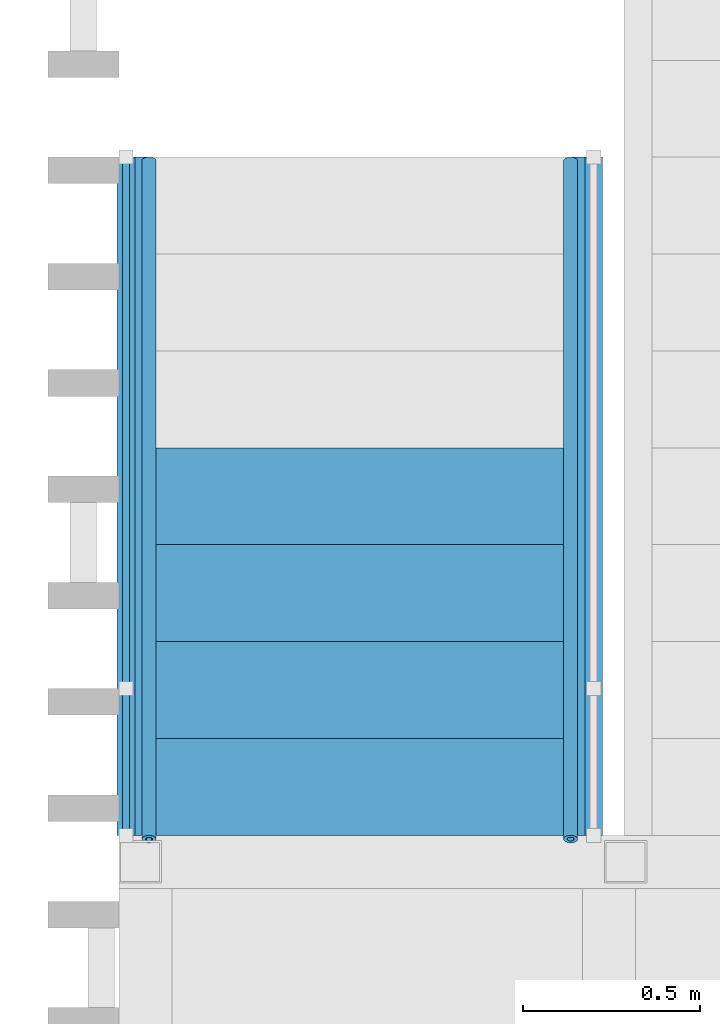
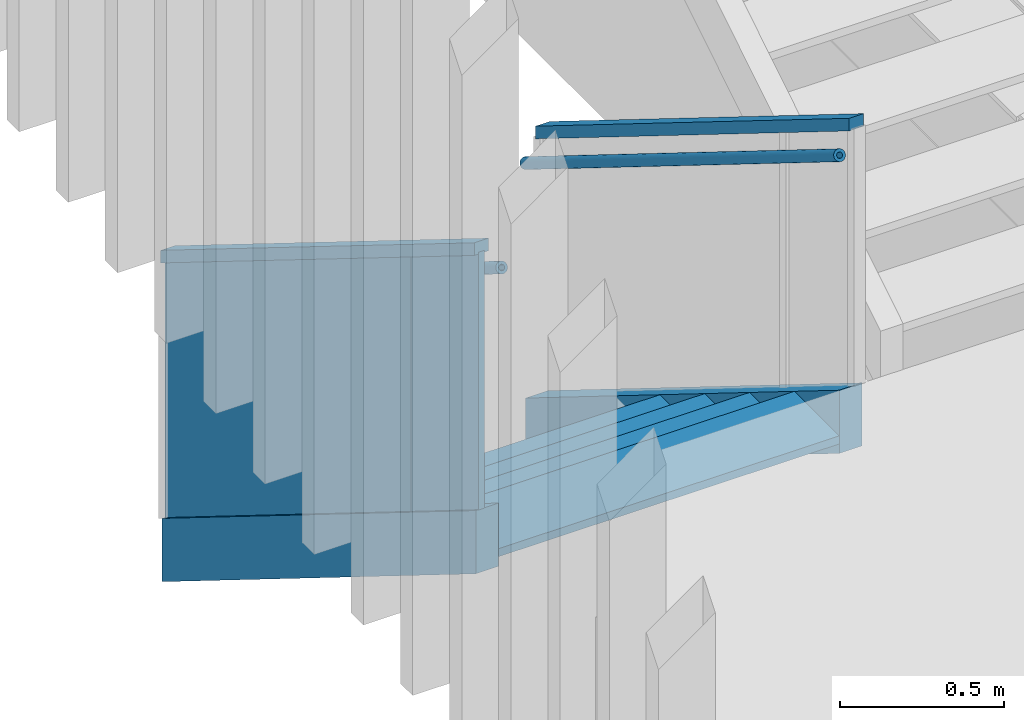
# One storey, part 181 of 301: 12 building element parts, 3 elements without a shape of their own.
"""IFC2X3 building model written with IfcOpenShell, lengths in millimetres."""

from ifc_helpers import new_model, entity, si_unit, converted_unit, derived_unit, money_unit, direction, frame, origin_with_axes, place, context, subcontext, project, spatial, faceted_brep, material, type_object, element, aggregate, save


model = new_model("IFC2X3")

# Units and contexts
model_context = context("Model", 3, precision=0.01, world=origin_with_axes(), true_north=direction((0.0, 1.0)))
body_context = subcontext(model_context, "Body", "Model", "MODEL_VIEW")
ifc_project = project(units=[si_unit("LENGTHUNIT", "METRE", prefix="MILLI"), si_unit("AREAUNIT", "SQUARE_METRE"), si_unit("VOLUMEUNIT", "CUBIC_METRE"), converted_unit("PLANEANGLEUNIT", "DEGREE", entity("IfcPlaneAngleMeasure", 0.0174532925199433), si_unit("PLANEANGLEUNIT", "RADIAN"), dimensions=[0, 0, 0, 0, 0, 0, 0]), money_unit("EUR"), converted_unit("TIMEUNIT", "Year", entity("IfcTimeMeasure", 31557600.0), si_unit("TIMEUNIT", "SECOND"), dimensions=[0, 0, 1, 0, 0, 0, 0]), si_unit("MASSUNIT", "GRAM", prefix="KILO"), si_unit("THERMODYNAMICTEMPERATUREUNIT", "DEGREE_CELSIUS"), si_unit("LUMINOUSINTENSITYUNIT", "LUMEN"), si_unit("ENERGYUNIT", "JOULE", prefix="MEGA"), derived_unit("THERMALCONDUCTANCEUNIT", [(si_unit("POWERUNIT", "WATT"), 1), (si_unit("LENGTHUNIT", "METRE"), -1), (si_unit("THERMODYNAMICTEMPERATUREUNIT", "KELVIN"), -1)]), derived_unit("SPECIFICHEATCAPACITYUNIT", [(si_unit("ENERGYUNIT", "JOULE"), 1), (si_unit("MASSUNIT", "GRAM", prefix="KILO"), -1), (si_unit("THERMODYNAMICTEMPERATUREUNIT", "KELVIN"), -1)]), derived_unit("MASSDENSITYUNIT", [(si_unit("MASSUNIT", "GRAM", prefix="KILO"), 1), (si_unit("VOLUMEUNIT", "CUBIC_METRE"), -1)])], contexts=[model_context])

# Site, building, storey
site_placement = place(None, frame((0.0, 0.0, 8650.0), z_axis=(0.0, 0.0, 1.0), x_axis=(1.0, 0.0, 0.0)))
site = spatial("IfcSite", under=ifc_project, at=site_placement, Name="43301:001:0844", CompositionType="ELEMENT")
building_placement = place(site_placement, origin_with_axes())
building = spatial("IfcBuilding", under=site, at=building_placement, Name="Kuressaare Ametikooli tuulikute mehaanikute õppekorpus", CompositionType="ELEMENT")
storey_placement = place(building_placement, origin_with_axes())
storey = spatial("IfcBuildingStorey", under=building, at=storey_placement, Name="1.korrus", CompositionType="ELEMENT", Elevation=0.0)

# Stair, building element parts
stair_placement = place(storey_placement, frame((86406.22662386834, 14177.91808387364, -175.0), z_axis=(0.0, 0.0, 1.0), x_axis=(-1.0, 0.0, 0.0)))
stair = element("IfcStair", 1, at=stair_placement, inside=storey, Name="Trepp3", ShapeType="NOTDEFINED")
ifc_material_1 = material(Name="Metall - Teras - Konstruktsioon")
building_element_part_1_placement = place(stair_placement, origin_with_axes())
building_element_part_1 = element("IfcBuildingElementPart", 2, at=building_element_part_1_placement, material=ifc_material_1, Name="Metall - Teras - Konstruktsioon", context=body_context, shape_type="Brep", body=[
    faceted_brep([(1280.000000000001, 1914.08, 1124.49869765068), (1280.000000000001, 0.0, -65.50130234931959), (1280.000000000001, 0.0, 170.0), (1280.000000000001, 1914.08, 1360.0), (1360.000000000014, 1914.08, 1124.49869765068), (1360.000000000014, 0.0, -65.50130234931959), (1360.000000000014, 0.0, 170.0), (1360.000000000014, 1914.08, 1360.0)], [[[0, 1, 2, 3]], [[4, 5, 1, 0]], [[2, 1, 5, 6]], [[3, 2, 6, 7]], [[7, 4, 0, 3]], [[7, 6, 5, 4]]]),
])
building_element_part_2_placement = place(stair_placement, origin_with_axes())
building_element_part_2 = element("IfcBuildingElementPart", 3, at=building_element_part_2_placement, material=ifc_material_1, Name="Metall - Teras - Konstruktsioon", context=body_context, shape_type="Brep", body=[
    faceted_brep([(0.0, 1914.08, 1124.49869765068), (0.0, 0.0, -65.50130234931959), (0.0, 0.0, 170.0), (0.0, 1914.08, 1360.0), (80.0000000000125, 1914.08, 1124.49869765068), (80.0000000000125, 0.0, -65.50130234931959), (80.0000000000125, 0.0, 170.0), (80.0000000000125, 1914.08, 1360.0)], [[[0, 1, 2, 3]], [[4, 5, 1, 0]], [[2, 1, 5, 6]], [[3, 2, 6, 7]], [[7, 4, 0, 3]], [[7, 6, 5, 4]]]),
])
ifc_material_2 = material(Name="Steel")
building_element_part_3_placement = place(stair_placement, origin_with_axes())
building_element_part_3 = element("IfcBuildingElementPart", 4, at=building_element_part_3_placement, material=ifc_material_2, Name="Steel", context=body_context, shape_type="Brep", body=[
    faceted_brep([(1280.000000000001, 820.3200000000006, 650.0000000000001), (1280.000000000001, 820.3200000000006, 680.0000000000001), (80.0000000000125, 820.3200000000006, 680.0000000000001), (80.0000000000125, 820.3200000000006, 650.0000000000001), (1280.000000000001, 1093.760000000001, 650.0000000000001), (1280.000000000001, 1093.760000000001, 680.0000000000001), (80.0000000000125, 1093.760000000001, 680.0000000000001), (80.0000000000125, 1093.760000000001, 650.0000000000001)], [[[0, 1, 2, 3]], [[4, 5, 1, 0]], [[1, 5, 6, 2]], [[3, 2, 6, 7]], [[0, 3, 7, 4]], [[7, 6, 5, 4]]]),
])
building_element_part_4_placement = place(stair_placement, origin_with_axes())
building_element_part_4 = element("IfcBuildingElementPart", 5, at=building_element_part_4_placement, material=ifc_material_2, Name="Steel", context=body_context, shape_type="Brep", body=[
    faceted_brep([(1280.000000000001, 1093.76, 820.0000000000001), (1280.000000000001, 1093.76, 850.0000000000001), (80.0000000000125, 1093.76, 850.0000000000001), (80.0000000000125, 1093.76, 820.0000000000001), (1280.000000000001, 1367.200000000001, 820.0000000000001), (1280.000000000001, 1367.200000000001, 850.0000000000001), (80.0000000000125, 1367.200000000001, 850.0000000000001), (80.0000000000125, 1367.200000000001, 820.0000000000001)], [[[0, 1, 2, 3]], [[4, 5, 1, 0]], [[1, 5, 6, 2]], [[3, 2, 6, 7]], [[0, 3, 7, 4]], [[7, 6, 5, 4]]]),
])
building_element_part_5_placement = place(stair_placement, origin_with_axes())
building_element_part_5 = element("IfcBuildingElementPart", 6, at=building_element_part_5_placement, material=ifc_material_2, Name="Steel", context=body_context, shape_type="Brep", body=[
    faceted_brep([(1280.000000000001, 1640.639999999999, 1160.0), (1280.000000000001, 1640.639999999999, 1190.0), (80.0000000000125, 1640.639999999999, 1190.0), (80.0000000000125, 1640.639999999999, 1160.0), (1280.000000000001, 1914.08, 1160.0), (1280.000000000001, 1914.08, 1190.0), (80.0000000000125, 1914.08, 1190.0), (80.0000000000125, 1914.08, 1160.0)], [[[0, 1, 2, 3]], [[4, 5, 1, 0]], [[1, 5, 6, 2]], [[3, 2, 6, 7]], [[0, 3, 7, 4]], [[7, 6, 5, 4]]]),
])
building_element_part_6_placement = place(stair_placement, origin_with_axes())
building_element_part_6 = element("IfcBuildingElementPart", 7, at=building_element_part_6_placement, material=ifc_material_2, Name="Steel", context=body_context, shape_type="Brep", body=[
    faceted_brep([(1280.000000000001, 1367.200000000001, 990.0), (1280.000000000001, 1367.200000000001, 1020.0), (80.0000000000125, 1367.200000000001, 1020.0), (80.0000000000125, 1367.200000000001, 990.0), (1280.000000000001, 1640.640000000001, 990.0), (1280.000000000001, 1640.640000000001, 1020.0), (80.0000000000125, 1640.640000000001, 1020.0), (80.0000000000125, 1640.640000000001, 990.0)], [[[0, 1, 2, 3]], [[4, 5, 1, 0]], [[1, 5, 6, 2]], [[3, 2, 6, 7]], [[0, 3, 7, 4]], [[7, 6, 5, 4]]]),
])
aggregate(stair, [building_element_part_1, building_element_part_2, building_element_part_3, building_element_part_4, building_element_part_5, building_element_part_6])

# Railing, building element parts
railing_type = type_object("IfcRailingType", Name="Railing Type", PredefinedType="NOTDEFINED")
railing_1_placement = place(storey_placement, frame((86406.22662386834, 14177.91808387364, -4.999999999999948), z_axis=(0.0, 0.0, 1.0), x_axis=(1.0, 0.0, 0.0)))
railing_1 = element("IfcRailing", 8, at=railing_1_placement, inside=storey, type_object=railing_type, Name="Piire", PredefinedType="NOTDEFINED")
building_element_part_7_placement = place(railing_1_placement, origin_with_axes())
building_element_part_7 = element("IfcBuildingElementPart", 9, at=building_element_part_7_placement, material=ifc_material_2, Name="Steel", context=body_context, shape_type="Brep", body=[
    faceted_brep([(-45.00000000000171, 0.0, 1000.0), (-45.00000000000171, 0.0, 952.899739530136), (-45.00000000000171, -1914.08, 2142.899739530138), (-45.00000000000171, -1914.08, 2190.000000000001), (5.000000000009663, 0.0, 1000.0), (5.000000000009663, 0.0, 952.899739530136), (5.000000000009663, -1914.08, 2142.899739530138), (5.000000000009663, -1914.08, 2190.000000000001)], [[[0, 1, 2, 3]], [[0, 4, 5, 1]], [[1, 5, 6, 2]], [[3, 2, 6, 7]], [[4, 0, 3, 7]], [[5, 4, 7, 6]]]),
])
ifc_material_3 = material(Name="Teras - roostevaba")
building_element_part_8_placement = place(railing_1_placement, origin_with_axes())
building_element_part_8 = element("IfcBuildingElementPart", 10, at=building_element_part_8_placement, material=ifc_material_3, Name="Teras - roostevaba", context=body_context, shape_type="Brep", body=[
    faceted_brep([(-64.99999999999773, -10.55974799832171, 883.0149559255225), (-65.3038449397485, -8.726067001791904, 885.964377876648), (-65.3038449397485, -1922.806067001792, 2075.964377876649), (-64.99999999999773, -1924.639747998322, 2073.014955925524), (-65.3038449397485, -12.39342899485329, 880.065533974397), (-66.2061475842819, -14.17139452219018, 877.2057287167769), (-67.67949192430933, -15.83962199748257, 874.522433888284), (-69.67911113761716, -17.34742317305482, 872.0971800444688), (-72.14424780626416, -18.64898427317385, 870.0036572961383), (-74.99999999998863, -19.70475802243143, 868.3054762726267), (-78.15959713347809, -20.48266526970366, 867.0542353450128), (-81.52703644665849, -20.95906969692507, 866.2879528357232), (-84.99999999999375, -21.11949599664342, 866.0299118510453), (-88.47296355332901, -20.95906969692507, 866.2879528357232), (-91.84040286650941, -20.48266526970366, 867.0542353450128), (-94.99999999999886, -19.70475802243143, 868.3054762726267), (-97.85575219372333, -18.64898427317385, 870.0036572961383), (-100.3208888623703, -17.34742317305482, 872.0971800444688), (-102.3205080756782, -15.83962199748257, 874.522433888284), (-103.7938524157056, -14.17139452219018, 877.2057287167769), (-104.696155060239, -12.39342899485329, 880.065533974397), (-104.9999999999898, -10.55974799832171, 883.0149559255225), (-104.696155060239, -8.726067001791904, 885.964377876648), (-103.7938524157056, -6.948101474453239, 888.8241831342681), (-102.3205080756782, -5.279873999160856, 891.5074779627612), (-100.3208888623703, -3.772072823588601, 893.9327318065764), (-97.85575219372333, -2.470511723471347, 896.0262545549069), (-94.99999999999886, -1.414737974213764, 897.7244355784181), (-91.84040286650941, -0.6368307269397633, 898.9756765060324), (-88.47296355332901, -0.1604262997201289, 899.741959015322), (-84.99999999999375, 0.0, 899.9999999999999), (-81.52703644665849, -0.1604262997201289, 899.741959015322), (-78.15959713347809, -0.6368307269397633, 898.9756765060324), (-74.99999999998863, -1.414737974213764, 897.7244355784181), (-72.14424780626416, -2.470511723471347, 896.0262545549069), (-69.67911113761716, -3.772072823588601, 893.9327318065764), (-67.67949192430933, -5.279873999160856, 891.5074779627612), (-66.2061475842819, -6.948101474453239, 888.8241831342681), (-74.99999999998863, -10.55974799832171, 883.0149559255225), (-75.15192246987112, -9.642907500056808, 884.4896669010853), (-75.60307379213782, -8.753924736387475, 885.9195695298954), (-76.33974596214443, -7.919810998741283, 887.2612169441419), (-77.33955556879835, -7.165910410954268, 888.4738438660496), (-78.57212390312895, -6.515129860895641, 889.5206052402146), (-79.9999999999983, -5.98724298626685, 890.3696957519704), (-81.57979856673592, -5.598289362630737, 890.9953162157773), (-83.26351822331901, -5.360087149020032, 891.3784574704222), (-84.99999999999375, -5.279873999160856, 891.5074779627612), (-86.73648177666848, -5.360087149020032, 891.3784574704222), (-88.42020143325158, -5.598289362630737, 890.9953162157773), (-89.9999999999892, -5.98724298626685, 890.3696957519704), (-91.42787609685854, -6.515129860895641, 889.5206052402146), (-92.66044443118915, -7.165910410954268, 888.4738438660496), (-93.66025403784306, -7.919810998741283, 887.2612169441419), (-94.39692620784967, -8.753924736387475, 885.9195695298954), (-94.84807753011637, -9.642907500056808, 884.4896669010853), (-94.99999999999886, -10.55974799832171, 883.0149559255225), (-94.84807753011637, -11.47658849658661, 881.5402449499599), (-94.39692620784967, -12.36557126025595, 880.1103423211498), (-93.66025403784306, -13.19968499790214, 878.7686949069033), (-92.66044443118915, -13.95358558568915, 877.5560679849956), (-91.42787609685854, -14.60436613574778, 876.5093066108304), (-89.9999999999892, -15.13225301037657, 875.6602160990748), (-88.42020143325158, -15.52120663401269, 875.0345956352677), (-86.73648177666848, -15.75940884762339, 874.651454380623), (-84.99999999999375, -15.83962199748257, 874.522433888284), (-83.26351822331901, -15.75940884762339, 874.651454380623), (-81.57979856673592, -15.52120663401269, 875.0345956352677), (-79.9999999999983, -15.13225301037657, 875.6602160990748), (-78.57212390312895, -14.60436613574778, 876.5093066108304), (-77.33955556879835, -13.95358558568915, 877.5560679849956), (-76.33974596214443, -13.19968499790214, 878.7686949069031), (-75.60307379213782, -12.36557126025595, 880.1103423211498), (-75.15192246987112, -11.47658849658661, 881.5402449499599), (-66.2061475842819, -1921.028101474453, 2078.824183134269), (-67.67949192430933, -1919.359873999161, 2081.507477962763), (-69.67911113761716, -1917.852072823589, 2083.932731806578), (-72.14424780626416, -1916.550511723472, 2086.026254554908), (-74.99999999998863, -1915.494737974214, 2087.72443557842), (-78.15959713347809, -1914.71683072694, 2088.975676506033), (-81.52703644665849, -1914.24042629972, 2089.741959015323), (-84.99999999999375, -1914.08, 2090.000000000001), (-88.47296355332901, -1914.24042629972, 2089.741959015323), (-91.84040286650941, -1914.71683072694, 2088.975676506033), (-94.99999999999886, -1915.494737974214, 2087.72443557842), (-97.85575219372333, -1916.550511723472, 2086.026254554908), (-100.3208888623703, -1917.852072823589, 2083.932731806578), (-102.3205080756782, -1919.359873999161, 2081.507477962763), (-103.7938524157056, -1921.028101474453, 2078.824183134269), (-104.696155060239, -1922.806067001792, 2075.964377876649), (-104.9999999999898, -1924.639747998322, 2073.014955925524), (-104.696155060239, -1926.473428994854, 2070.065533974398), (-103.7938524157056, -1928.25139452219, 2067.205728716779), (-102.3205080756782, -1929.919621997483, 2064.522433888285), (-100.3208888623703, -1931.427423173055, 2062.09718004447), (-97.85575219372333, -1932.728984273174, 2060.00365729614), (-94.99999999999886, -1933.78475802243, 2058.305476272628), (-91.84040286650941, -1934.562665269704, 2057.054235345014), (-88.47296355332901, -1935.039069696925, 2056.287952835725), (-84.99999999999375, -1935.199495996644, 2056.029911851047), (-81.52703644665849, -1935.039069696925, 2056.287952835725), (-78.15959713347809, -1934.562665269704, 2057.054235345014), (-74.99999999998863, -1933.78475802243, 2058.305476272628), (-72.14424780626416, -1932.728984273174, 2060.00365729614), (-69.67911113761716, -1931.427423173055, 2062.09718004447), (-67.67949192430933, -1929.919621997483, 2064.522433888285), (-66.2061475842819, -1928.25139452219, 2067.205728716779), (-65.3038449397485, -1926.473428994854, 2070.065533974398), (-74.99999999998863, -1924.639747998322, 2073.014955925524), (-75.15192246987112, -1925.556588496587, 2071.540244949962), (-75.60307379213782, -1926.445571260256, 2070.110342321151), (-76.33974596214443, -1927.279684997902, 2068.768694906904), (-77.33955556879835, -1928.033585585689, 2067.556067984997), (-78.57212390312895, -1928.684366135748, 2066.509306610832), (-79.9999999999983, -1929.212253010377, 2065.660216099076), (-81.57979856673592, -1929.601206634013, 2065.034595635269), (-83.26351822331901, -1929.839408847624, 2064.651454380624), (-84.99999999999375, -1929.919621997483, 2064.522433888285), (-86.73648177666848, -1929.839408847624, 2064.651454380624), (-88.42020143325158, -1929.601206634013, 2065.034595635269), (-89.9999999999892, -1929.212253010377, 2065.660216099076), (-91.42787609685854, -1928.684366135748, 2066.509306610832), (-92.66044443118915, -1928.033585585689, 2067.556067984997), (-93.66025403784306, -1927.279684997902, 2068.768694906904), (-94.39692620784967, -1926.445571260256, 2070.110342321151), (-94.84807753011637, -1925.556588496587, 2071.540244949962), (-94.99999999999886, -1924.639747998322, 2073.014955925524), (-94.84807753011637, -1923.722907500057, 2074.489666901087), (-94.39692620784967, -1922.833924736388, 2075.919569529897), (-93.66025403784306, -1921.999810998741, 2077.261216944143), (-92.66044443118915, -1921.245910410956, 2078.473843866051), (-91.42787609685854, -1920.595129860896, 2079.520605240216), (-89.9999999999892, -1920.067242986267, 2080.369695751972), (-88.42020143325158, -1919.678289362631, 2080.995316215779), (-86.73648177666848, -1919.44008714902, 2081.378457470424), (-84.99999999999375, -1919.359873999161, 2081.507477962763), (-83.26351822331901, -1919.44008714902, 2081.378457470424), (-81.57979856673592, -1919.678289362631, 2080.995316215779), (-79.9999999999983, -1920.067242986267, 2080.369695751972), (-78.57212390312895, -1920.595129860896, 2079.520605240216), (-77.33955556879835, -1921.245910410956, 2078.473843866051), (-76.33974596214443, -1921.999810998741, 2077.261216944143), (-75.60307379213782, -1922.833924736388, 2075.919569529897), (-75.15192246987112, -1923.722907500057, 2074.489666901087)], [[[0, 1, 2, 3]], [[0, 4, 5, 6, 7, 8, 9, 10, 11, 12, 13, 14, 15, 16, 17, 18, 19, 20, 21, 22, 23, 24, 25, 26, 27, 28, 29, 30, 31, 32, 33, 34, 35, 36, 37, 1], [38, 39, 40, 41, 42, 43, 44, 45, 46, 47, 48, 49, 50, 51, 52, 53, 54, 55, 56, 57, 58, 59, 60, 61, 62, 63, 64, 65, 66, 67, 68, 69, 70, 71, 72, 73]], [[1, 37, 74, 2]], [[3, 2, 74, 75, 76, 77, 78, 79, 80, 81, 82, 83, 84, 85, 86, 87, 88, 89, 90, 91, 92, 93, 94, 95, 96, 97, 98, 99, 100, 101, 102, 103, 104, 105, 106, 107], [108, 109, 110, 111, 112, 113, 114, 115, 116, 117, 118, 119, 120, 121, 122, 123, 124, 125, 126, 127, 128, 129, 130, 131, 132, 133, 134, 135, 136, 137, 138, 139, 140, 141, 142, 143]], [[4, 0, 3, 107]], [[5, 4, 107, 106]], [[6, 5, 106, 105]], [[7, 6, 105, 104]], [[8, 7, 104, 103]], [[9, 8, 103, 102]], [[10, 9, 102, 101]], [[11, 10, 101, 100]], [[12, 11, 100, 99]], [[13, 12, 99, 98]], [[14, 13, 98, 97]], [[15, 14, 97, 96]], [[16, 15, 96, 95]], [[17, 16, 95, 94]], [[18, 17, 94, 93]], [[19, 18, 93, 92]], [[20, 19, 92, 91]], [[21, 20, 91, 90]], [[22, 21, 90, 89]], [[23, 22, 89, 88]], [[24, 23, 88, 87]], [[25, 24, 87, 86]], [[26, 25, 86, 85]], [[27, 26, 85, 84]], [[28, 27, 84, 83]], [[29, 28, 83, 82]], [[30, 29, 82, 81]], [[31, 30, 81, 80]], [[32, 31, 80, 79]], [[33, 32, 79, 78]], [[34, 33, 78, 77]], [[35, 34, 77, 76]], [[36, 35, 76, 75]], [[37, 36, 75, 74]], [[39, 38, 108, 143]], [[40, 39, 143, 142]], [[41, 40, 142, 141]], [[42, 41, 141, 140]], [[43, 42, 140, 139]], [[44, 43, 139, 138]], [[45, 44, 138, 137]], [[46, 45, 137, 136]], [[47, 46, 136, 135]], [[48, 47, 135, 134]], [[49, 48, 134, 133]], [[50, 49, 133, 132]], [[51, 50, 132, 131]], [[52, 51, 131, 130]], [[53, 52, 130, 129]], [[54, 53, 129, 128]], [[55, 54, 128, 127]], [[56, 55, 127, 126]], [[57, 56, 126, 125]], [[58, 57, 125, 124]], [[59, 58, 124, 123]], [[60, 59, 123, 122]], [[61, 60, 122, 121]], [[62, 61, 121, 120]], [[63, 62, 120, 119]], [[64, 63, 119, 118]], [[65, 64, 118, 117]], [[66, 65, 117, 116]], [[67, 66, 116, 115]], [[68, 67, 115, 114]], [[69, 68, 114, 113]], [[70, 69, 113, 112]], [[71, 70, 112, 111]], [[72, 71, 111, 110]], [[73, 72, 110, 109]], [[38, 73, 109, 108]]]),
])
aggregate(railing_1, [building_element_part_7, building_element_part_8])

railing_2_placement = place(storey_placement, frame((84966.22662386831, 14177.91808387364, -4.999999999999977), z_axis=(0.0, 0.0, 1.0), x_axis=(-1.0, 0.0, 0.0)))
railing_2 = element("IfcRailing", 11, at=railing_2_placement, inside=storey, type_object=railing_type, Name="Piire", PredefinedType="NOTDEFINED")
building_element_part_9_placement = place(railing_2_placement, origin_with_axes())
building_element_part_9 = element("IfcBuildingElementPart", 12, at=building_element_part_9_placement, material=ifc_material_3, Name="Teras - roostevaba", context=body_context, shape_type="Brep", body=[
    faceted_brep([(-185.0000000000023, 10.5512546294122, 883.0096784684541), (-184.6961550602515, 8.719048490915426, 885.9600168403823), (-184.6961550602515, 1922.799062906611, 2074.633555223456), (-185.0000000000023, 1924.631269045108, 2071.683216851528), (-184.6961550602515, 12.38346076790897, 880.059340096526), (-183.7938524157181, 14.15999625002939, 877.1986462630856), (-182.3205080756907, 15.8268819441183, 874.5145177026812), (-180.3208888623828, 17.33347037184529, 872.0885103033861), (-177.8557521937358, 18.6339846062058, 869.9943370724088), (-175.0000000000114, 19.68890918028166, 868.2956284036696), (-171.8404028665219, 20.46619074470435, 867.0439987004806), (-168.4729635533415, 20.94221199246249, 866.2774780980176), (-165.0000000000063, 21.1025092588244, 866.0193569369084), (-161.527036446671, 20.94221199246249, 866.2774780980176), (-158.1595971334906, 20.46619074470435, 867.0439987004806), (-155.0000000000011, 19.68890918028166, 868.2956284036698), (-152.1442478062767, 18.6339846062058, 869.9943370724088), (-149.6791111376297, 17.33347037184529, 872.0885103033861), (-147.6794919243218, 15.8268819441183, 874.5145177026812), (-146.2061475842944, 14.15999625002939, 877.1986462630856), (-145.303844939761, 12.38346076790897, 880.059340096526), (-145.0000000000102, 10.5512546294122, 883.0096784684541), (-145.303844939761, 8.719048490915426, 885.9600168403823), (-146.2061475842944, 6.942513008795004, 888.8207106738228), (-147.6794919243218, 5.275627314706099, 891.5048392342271), (-149.6791111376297, 3.769038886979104, 893.9308466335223), (-152.1442478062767, 2.468524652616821, 896.0250198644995), (-155.0000000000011, 1.413600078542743, 897.7237285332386), (-158.1595971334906, 0.6363185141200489, 898.9753582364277), (-161.527036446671, 0.1602972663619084, 899.7418788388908), (-165.0000000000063, 0.0, 900.0), (-168.4729635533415, 0.1602972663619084, 899.7418788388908), (-171.8404028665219, 0.6363185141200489, 898.9753582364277), (-175.0000000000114, 1.413600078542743, 897.7237285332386), (-177.8557521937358, 2.468524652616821, 896.0250198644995), (-180.3208888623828, 3.769038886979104, 893.9308466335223), (-182.3205080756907, 5.275627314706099, 891.5048392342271), (-183.7938524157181, 6.942513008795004, 888.8207106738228), (-175.0000000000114, 10.5512546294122, 883.0096784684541), (-174.8480775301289, 9.635151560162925, 884.4848476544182), (-174.3969262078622, 8.746883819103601, 885.9151945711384), (-173.6602540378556, 7.913440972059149, 887.2572588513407), (-172.6604444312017, 7.160146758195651, 888.4702625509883), (-171.427876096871, 6.50988964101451, 889.5173491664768), (-170.0000000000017, 5.982427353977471, 890.3667035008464), (-168.4202014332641, 5.593786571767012, 890.9925183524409), (-166.736481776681, 5.355775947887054, 891.3757786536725), (-165.0000000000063, 5.275627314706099, 891.5048392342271), (-163.2635182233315, 5.355775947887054, 891.3757786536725), (-161.5797985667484, 5.593786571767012, 890.9925183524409), (-160.0000000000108, 5.982427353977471, 890.3667035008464), (-158.5721239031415, 6.50988964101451, 889.5173491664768), (-157.3395555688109, 7.160146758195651, 888.4702625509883), (-156.3397459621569, 7.913440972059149, 887.2572588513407), (-155.6030737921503, 8.746883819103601, 885.9151945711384), (-155.1519224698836, 9.635151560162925, 884.4848476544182), (-155.0000000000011, 10.5512546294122, 883.0096784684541), (-155.1519224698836, 11.46735769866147, 881.5345092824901), (-155.6030737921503, 12.3556254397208, 880.10416236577), (-156.3397459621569, 13.18906828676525, 878.7620980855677), (-157.3395555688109, 13.94236250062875, 877.5490943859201), (-158.5721239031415, 14.59261961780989, 876.5020077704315), (-160.0000000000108, 15.12008190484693, 875.6526534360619), (-161.5797985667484, 15.50872268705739, 875.0268385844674), (-163.2635182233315, 15.74673331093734, 874.6435782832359), (-165.0000000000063, 15.8268819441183, 874.5145177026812), (-166.736481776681, 15.74673331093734, 874.6435782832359), (-168.4202014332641, 15.50872268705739, 875.0268385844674), (-170.0000000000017, 15.12008190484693, 875.6526534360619), (-171.427876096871, 14.59261961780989, 876.5020077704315), (-172.6604444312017, 13.94236250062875, 877.5490943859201), (-173.6602540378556, 13.18906828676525, 878.7620980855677), (-174.3969262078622, 12.3556254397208, 880.10416236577), (-174.8480775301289, 11.46735769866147, 881.5345092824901), (-183.7938524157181, 1921.022527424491, 2077.494249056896), (-182.3205080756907, 1919.355641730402, 2080.178377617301), (-180.3208888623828, 1917.849053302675, 2082.604385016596), (-177.8557521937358, 1916.548539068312, 2084.698558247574), (-175.0000000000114, 1915.493614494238, 2086.397266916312), (-171.8404028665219, 1914.716332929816, 2087.648896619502), (-168.4729635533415, 1914.240311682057, 2088.415417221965), (-165.0000000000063, 1914.080014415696, 2088.673538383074), (-161.527036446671, 1914.240311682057, 2088.415417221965), (-158.1595971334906, 1914.716332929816, 2087.648896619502), (-155.0000000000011, 1915.493614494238, 2086.397266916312), (-152.1442478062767, 1916.548539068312, 2084.698558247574), (-149.6791111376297, 1917.849053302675, 2082.604385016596), (-147.6794919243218, 1919.355641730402, 2080.178377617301), (-146.2061475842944, 1921.022527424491, 2077.494249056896), (-145.303844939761, 1922.799062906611, 2074.633555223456), (-145.0000000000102, 1924.631269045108, 2071.683216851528), (-145.303844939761, 1926.463475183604, 2068.7328784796), (-146.2061475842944, 1928.240010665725, 2065.872184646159), (-147.6794919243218, 1929.906896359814, 2063.188056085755), (-149.6791111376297, 1931.413484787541, 2060.76204868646), (-152.1442478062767, 1932.713999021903, 2058.667875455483), (-155.0000000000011, 1933.768923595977, 2056.969166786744), (-158.1595971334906, 1934.5462051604, 2055.717537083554), (-161.527036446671, 1935.022226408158, 2054.951016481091), (-165.0000000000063, 1935.18252367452, 2054.692895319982), (-168.4729635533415, 1935.022226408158, 2054.951016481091), (-171.8404028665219, 1934.5462051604, 2055.717537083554), (-175.0000000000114, 1933.768923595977, 2056.969166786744), (-177.8557521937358, 1932.713999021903, 2058.667875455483), (-180.3208888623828, 1931.413484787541, 2060.76204868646), (-182.3205080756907, 1929.906896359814, 2063.188056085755), (-183.7938524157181, 1928.240010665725, 2065.872184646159), (-184.6961550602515, 1926.463475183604, 2068.7328784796), (-175.0000000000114, 1924.631269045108, 2071.683216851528), (-174.8480775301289, 1925.547372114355, 2070.208047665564), (-174.3969262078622, 1926.435639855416, 2068.777700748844), (-173.6602540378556, 1927.269082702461, 2067.435636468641), (-172.6604444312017, 1928.022376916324, 2066.222632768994), (-171.427876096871, 1928.672634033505, 2065.175546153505), (-170.0000000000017, 1929.200096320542, 2064.326191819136), (-168.4202014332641, 1929.588737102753, 2063.700376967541), (-166.736481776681, 1929.826747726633, 2063.31711666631), (-165.0000000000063, 1929.906896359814, 2063.188056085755), (-163.2635182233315, 1929.826747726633, 2063.31711666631), (-161.5797985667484, 1929.588737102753, 2063.700376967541), (-160.0000000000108, 1929.200096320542, 2064.326191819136), (-158.5721239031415, 1928.672634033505, 2065.175546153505), (-157.3395555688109, 1928.022376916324, 2066.222632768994), (-156.3397459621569, 1927.269082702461, 2067.435636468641), (-155.6030737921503, 1926.435639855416, 2068.777700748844), (-155.1519224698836, 1925.547372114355, 2070.208047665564), (-155.0000000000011, 1924.631269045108, 2071.683216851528), (-155.1519224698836, 1923.715165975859, 2073.158386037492), (-155.6030737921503, 1922.826898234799, 2074.588732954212), (-156.3397459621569, 1921.993455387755, 2075.930797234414), (-157.3395555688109, 1921.240161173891, 2077.143800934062), (-158.5721239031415, 1920.58990405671, 2078.190887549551), (-160.0000000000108, 1920.062441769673, 2079.04024188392), (-161.5797985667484, 1919.673800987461, 2079.666056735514), (-163.2635182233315, 1919.435790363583, 2080.049317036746), (-165.0000000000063, 1919.355641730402, 2080.178377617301), (-166.736481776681, 1919.435790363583, 2080.049317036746), (-168.4202014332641, 1919.673800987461, 2079.666056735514), (-170.0000000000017, 1920.062441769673, 2079.04024188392), (-171.427876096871, 1920.58990405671, 2078.190887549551), (-172.6604444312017, 1921.240161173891, 2077.143800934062), (-173.6602540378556, 1921.993455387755, 2075.930797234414), (-174.3969262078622, 1922.826898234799, 2074.588732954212), (-174.8480775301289, 1923.715165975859, 2073.158386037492)], [[[0, 1, 2, 3]], [[0, 4, 5, 6, 7, 8, 9, 10, 11, 12, 13, 14, 15, 16, 17, 18, 19, 20, 21, 22, 23, 24, 25, 26, 27, 28, 29, 30, 31, 32, 33, 34, 35, 36, 37, 1], [38, 39, 40, 41, 42, 43, 44, 45, 46, 47, 48, 49, 50, 51, 52, 53, 54, 55, 56, 57, 58, 59, 60, 61, 62, 63, 64, 65, 66, 67, 68, 69, 70, 71, 72, 73]], [[1, 37, 74, 2]], [[3, 2, 74, 75, 76, 77, 78, 79, 80, 81, 82, 83, 84, 85, 86, 87, 88, 89, 90, 91, 92, 93, 94, 95, 96, 97, 98, 99, 100, 101, 102, 103, 104, 105, 106, 107], [108, 109, 110, 111, 112, 113, 114, 115, 116, 117, 118, 119, 120, 121, 122, 123, 124, 125, 126, 127, 128, 129, 130, 131, 132, 133, 134, 135, 136, 137, 138, 139, 140, 141, 142, 143]], [[4, 0, 3, 107]], [[5, 4, 107, 106]], [[6, 5, 106, 105]], [[7, 6, 105, 104]], [[8, 7, 104, 103]], [[9, 8, 103, 102]], [[10, 9, 102, 101]], [[11, 10, 101, 100]], [[12, 11, 100, 99]], [[13, 12, 99, 98]], [[14, 13, 98, 97]], [[15, 14, 97, 96]], [[16, 15, 96, 95]], [[17, 16, 95, 94]], [[18, 17, 94, 93]], [[19, 18, 93, 92]], [[20, 19, 92, 91]], [[21, 20, 91, 90]], [[22, 21, 90, 89]], [[23, 22, 89, 88]], [[24, 23, 88, 87]], [[25, 24, 87, 86]], [[26, 25, 86, 85]], [[27, 26, 85, 84]], [[28, 27, 84, 83]], [[29, 28, 83, 82]], [[30, 29, 82, 81]], [[31, 30, 81, 80]], [[32, 31, 80, 79]], [[33, 32, 79, 78]], [[34, 33, 78, 77]], [[35, 34, 77, 76]], [[36, 35, 76, 75]], [[37, 36, 75, 74]], [[39, 38, 108, 143]], [[40, 39, 143, 142]], [[41, 40, 142, 141]], [[42, 41, 141, 140]], [[43, 42, 140, 139]], [[44, 43, 139, 138]], [[45, 44, 138, 137]], [[46, 45, 137, 136]], [[47, 46, 136, 135]], [[48, 47, 135, 134]], [[49, 48, 134, 133]], [[50, 49, 133, 132]], [[51, 50, 132, 131]], [[52, 51, 131, 130]], [[53, 52, 130, 129]], [[54, 53, 129, 128]], [[55, 54, 128, 127]], [[56, 55, 127, 126]], [[57, 56, 126, 125]], [[58, 57, 125, 124]], [[59, 58, 124, 123]], [[60, 59, 123, 122]], [[61, 60, 122, 121]], [[62, 61, 121, 120]], [[63, 62, 120, 119]], [[64, 63, 119, 118]], [[65, 64, 118, 117]], [[66, 65, 117, 116]], [[67, 66, 116, 115]], [[68, 67, 115, 114]], [[69, 68, 114, 113]], [[70, 69, 113, 112]], [[71, 70, 112, 111]], [[72, 71, 111, 110]], [[73, 72, 110, 109]], [[38, 73, 109, 108]]]),
])
building_element_part_10_placement = place(railing_2_placement, origin_with_axes())
building_element_part_10 = element("IfcBuildingElementPart", 13, at=building_element_part_10_placement, material=ifc_material_2, Name="Steel", context=body_context, shape_type="Brep", body=[
    faceted_brep([(-75.00000000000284, 0.0, 1000.0), (-75.00000000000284, 0.0, 952.9143696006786), (-75.00000000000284, 1914.080014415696, 2141.587907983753), (-75.00000000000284, 1914.080014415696, 2188.673538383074), (-125.0000000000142, 0.0, 1000.0), (-125.0000000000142, 0.0, 952.9143696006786), (-125.0000000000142, 1914.080014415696, 2141.587907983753), (-125.0000000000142, 1914.080014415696, 2188.673538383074)], [[[0, 1, 2, 3]], [[0, 4, 5, 1]], [[1, 5, 6, 2]], [[3, 2, 6, 7]], [[4, 0, 3, 7]], [[5, 4, 7, 6]]]),
])
ifc_material_4 = material(Name="Klaas")
building_element_part_11_placement = place(railing_2_placement, origin_with_axes())
building_element_part_11 = element("IfcBuildingElementPart", 14, at=building_element_part_11_placement, material=ifc_material_4, Name="Klaas", context=body_context, shape_type="Brep", body=[
    faceted_brep([(-90.00000000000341, 1500.0, 931.5233919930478), (-90.00000000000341, 1500.0, 1891.523391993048), (-90.00000000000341, 0.0, 960.0), (-90.00000000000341, 0.0, 0.0), (-110.0000000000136, 1500.0, 931.5233919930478), (-110.0000000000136, 1500.0, 1891.523391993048), (-110.0000000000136, 0.0, 960.0), (-110.0000000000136, 0.0, 0.0)], [[[0, 1, 2, 3]], [[0, 4, 5, 1]], [[1, 5, 6, 2]], [[6, 7, 3, 2]], [[7, 4, 0, 3]], [[6, 5, 4, 7]]]),
])
building_element_part_12_placement = place(railing_2_placement, origin_with_axes())
building_element_part_12 = element("IfcBuildingElementPart", 15, at=building_element_part_12_placement, material=ifc_material_4, Name="Klaas", context=body_context, shape_type="Brep", body=[
    faceted_brep([(-90.00000000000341, 1914.080014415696, 1188.673538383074), (-90.00000000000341, 1914.080014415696, 2148.673538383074), (-90.00000000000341, 1500.0, 1891.523391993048), (-90.00000000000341, 1500.0, 931.5233919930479), (-110.0000000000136, 1914.080014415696, 1188.673538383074), (-110.0000000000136, 1914.080014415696, 2148.673538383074), (-110.0000000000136, 1500.0, 1891.523391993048), (-110.0000000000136, 1500.0, 931.5233919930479)], [[[0, 1, 2, 3]], [[0, 4, 5, 1]], [[1, 5, 6, 2]], [[6, 7, 3, 2]], [[7, 4, 0, 3]], [[6, 5, 4, 7]]]),
])
aggregate(railing_2, [building_element_part_9, building_element_part_10, building_element_part_11, building_element_part_12])

save(model, "model.ifc")
